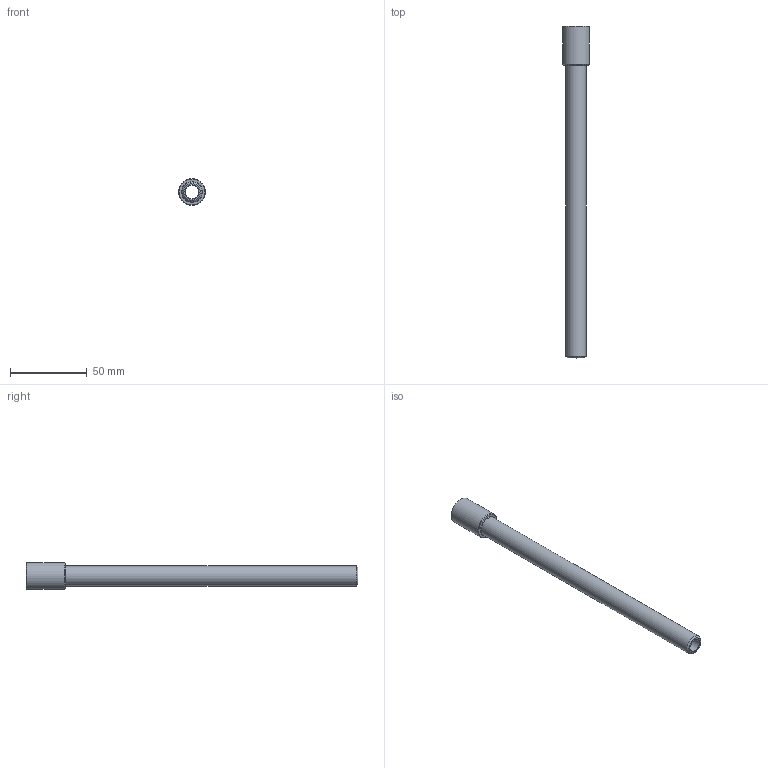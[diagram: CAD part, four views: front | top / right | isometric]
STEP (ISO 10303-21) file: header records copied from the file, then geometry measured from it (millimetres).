
FILE_DESCRIPTION(/* description */ (''),/* implementation_level */ '2;1');
FILE_NAME(/* name */ 'C:/Users/drich/Desktop/EP14X8-1_2 v1.step',/* time_stamp */ '2019-11-18T15:02:05-06:00',/* author */ (''),/* organization */ (''),/* preprocessor_version */ 'ST-DEVELOPER v18',/* originating_system */ 'Autodesk Translation Framework v8.12.0.6',/* authorisation */ '');
FILE_SCHEMA (('AUTOMOTIVE_DESIGN { 1 0 10303 214 3 1 1 }'));
Length unit declared in the file: inch
Products named in the file (2): EP14X8-1_2; EP14X4
Assembly tree (1 placements, depth 2):
  EP14X8-1_2
    EP14X4
Bounding box: 17.45 x 215.9 x 17.45 mm (x, y, z)
Volume: 17707.1 mm3; surface area: 15591.4 mm2
Topology: 1 solids, 1 shells, 23 faces, 55 edges, 37 vertices
Faces by surface type: plane 11, cone 7, cylinder 5
Full cylindrical faces by diameter (mm): 8.712 x1, 11.43 x1, 11.668 x1, 13.032 x1, 17.45 x1
Entity records: 740 total; most frequent: CARTESIAN_POINT 132, DIRECTION 124, ORIENTED_EDGE 110, EDGE_CURVE 55, AXIS2_PLACEMENT_3D 50, VERTEX_POINT 37, EDGE_LOOP 28, LINE 24
